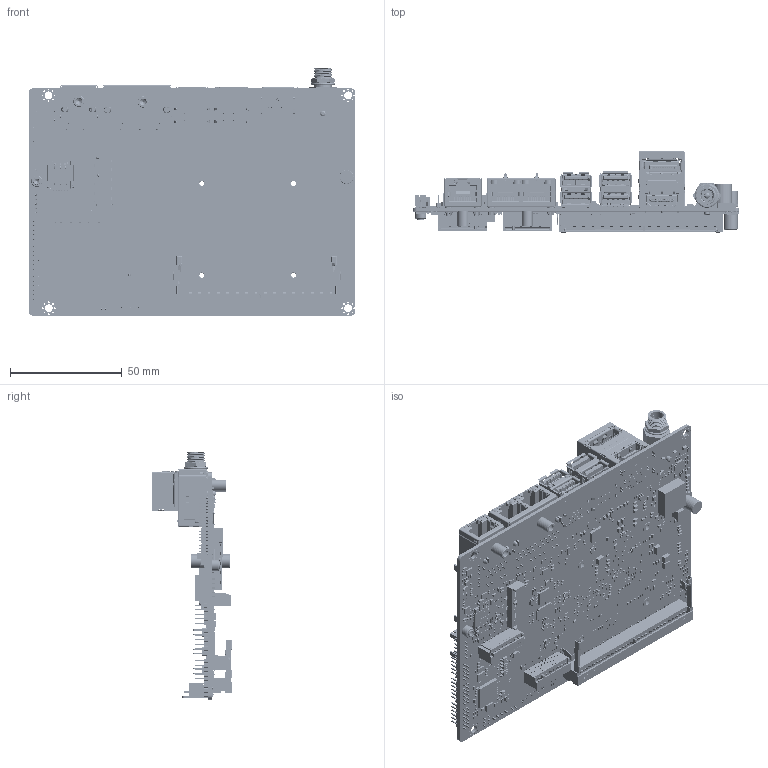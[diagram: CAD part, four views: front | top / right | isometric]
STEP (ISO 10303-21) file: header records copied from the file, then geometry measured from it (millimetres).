
FILE_DESCRIPTION((''),'2;1');
FILE_NAME('00-ECM-TWL3_ASM','2025-08-29T09:11:05',('frank_lu'),(''),'CREO PARAMETRIC BY PTC INC, 2024273','CREO PARAMETRIC BY PTC INC, 2024273','');
FILE_SCHEMA(('CONFIG_CONTROL_DESIGN','GEOMETRIC_VALIDATION_PROPERTIES_MIM'));
Products named in the file (115): ECM-TWL3-PCB; E14S4009700H-1; E193A3101X0R; E16H3361102R; E16F1439030H; UB1112C-8HS6-4F; E16D5I00301R; E16G2282301R; E16G2142306R; E1660211203H; E1662510201H; E1662210201H; E1672506200H; E1672505200H; E1613620000R; E16135200K0R; E16135200K5R; E1613310000R; E16135200K3R; E1664410000R; E16C4070003R; E1672620202R; E16A38D141DH; E1695062300R; E1673210130H; E16BB671031H; E193A3306X1R; E16BB671030H; E16BB671039H; E193A3003X3R; E1183627724H_CAPACITOR; ECM-TWL3-A1-20250624; E1212204721H; XXXX; E1213006004000H; E1183627724H; E121220101B000H; A-CE_H132; A-FCC_H132; A-UKCA-S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
Assembly tree (1725 placements, depth 3):
  00-ECM-TWL3_ASM
    ECM-TWL3-PCB
    E14S4009700H-1
    E193A3101X0R  x4
    E16H3361102R
    E16F1439030H
    UB1112C-8HS6-4F
    E16D5I00301R
    E16G2282301R
    E16G2142306R
    E1660211203H  x2
    E1662510201H
    E1662210201H
    E1672506200H
    E1672505200H
    E1613620000R  x2
    E16135200K0R  x4
    E16135200K5R
    E1613310000R  x4
    E16135200K3R
    E1664410000R
    E16C4070003R
    E1672620202R
    E16A38D141DH
    E1695062300R
    E1673210130H
    E16BB671031H
    E193A3306X1R  x2
    E16BB671030H
    E16BB671039H
    E193A3003X3R
    E1183627724H_CAPACITOR
    ECM-TWL3-A1-20250624
    ECM-TWL3_A1-M-0624_ASM
      E1212204721H
      XXXX  x8
      E1213006004000H  x4
      E1183627724H
      E121220101B000H
      A-CE_H132
      A-FCC_H132
      A-UKCA-S
      E1305010140H  x4
      E14S3517600H
      E1315013812H  x14
      E1314717610H
      E14S4120400H
      E14S6225165H  x3
      E1301055141H  x2
      E14S3043700H  x2
      E105B501036H-Y1  x169
      E14S4143500H  x2
      EXXX  x39
      E1231332729H
      E1213106003H  x4
      E1213108003H
      E1213103004H  x5
      E10185005CXH-P1
      A-R0603  x36
      A-R0402  x523
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Bounding box: 146.05 x 36.15 x 110.5 mm (x, y, z)
Volume: 48238 mm3; surface area: 106105.8 mm2
Topology: 1899 solids, 1932 shells, 50217 faces, 133209 edges, 86640 vertices
Faces by surface type: plane 40062, cylinder 9134, bspline 507, torus 177, extrusion 129, cone 128, sphere 80
Entity records: 1431500 total; most frequent: CARTESIAN_POINT 263167, ORIENTED_EDGE 212205, DIRECTION 201348, EDGE_CURVE 106181, VECTOR 85516, LINE 85387, VERTEX_POINT 68843, AXIS2_PLACEMENT_3D 57916
